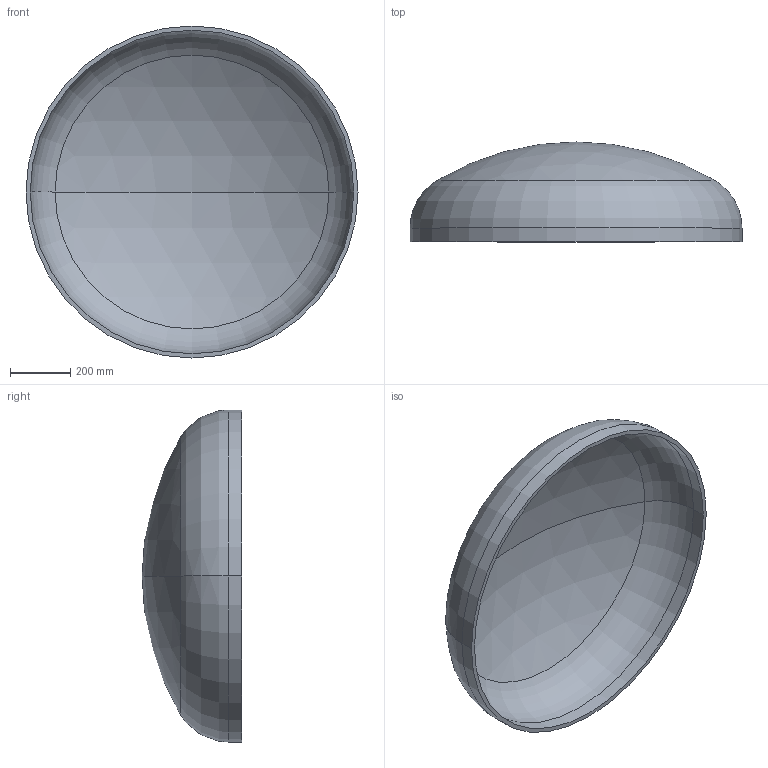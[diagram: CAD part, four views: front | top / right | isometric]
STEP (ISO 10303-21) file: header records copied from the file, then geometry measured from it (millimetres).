
FILE_DESCRIPTION (( 'STEP AP203' ), '1' );
FILE_NAME ('DIN 28013 Korbbogenform_-_Boden DIN 28013 - 1100 x 45 - I - s=14.step', '2016-07-01T09:01:46', ( '' ), ( '' ), 'SwSTEP 2.0', 'SolidWorks 2013', '' );
FILE_SCHEMA (( 'CONFIG_CONTROL_DESIGN' ));
Length unit declared in the file: millimetre
Products named in the file (1): DIN 28013 Korbbogenform_-_Boden DIN 28013 - 1100 x 45 - I - s=14
Bounding box: 1100 x 330.61 x 1100 mm (x, y, z)
Volume: 20281369.5 mm3; surface area: 2945512.8 mm2
Topology: 1 solids, 1 shells, 13 faces, 24 edges, 14 vertices
Faces by surface type: torus 4, cylinder 4, sphere 4, plane 1
Entity records: 407 total; most frequent: DIRECTION 72, CARTESIAN_POINT 52, ORIENTED_EDGE 48, AXIS2_PLACEMENT_3D 34, EDGE_CURVE 24, CIRCLE 20, EDGE_LOOP 14, VERTEX_POINT 14
